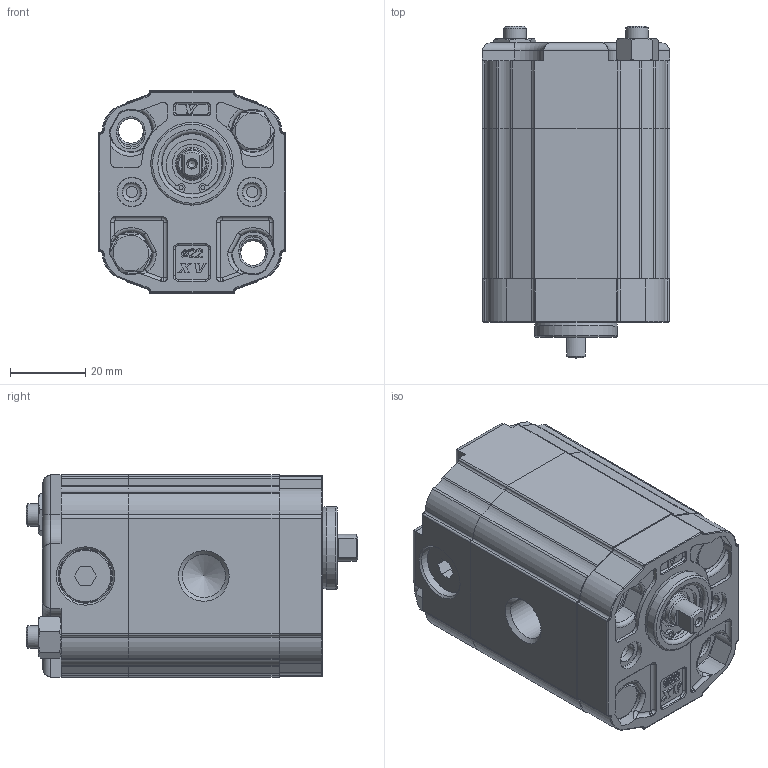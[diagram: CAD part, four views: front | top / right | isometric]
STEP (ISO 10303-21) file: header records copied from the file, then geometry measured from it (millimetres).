
FILE_DESCRIPTION(/* description */ ('Unknown'),/* implementation_level */ '2;1');
FILE_NAME(/* name */ 'X0R1121BBBF',/* time_stamp */ '2021-05-10T18:10:56+02:00',/* author */ ('Unknown'),/* organization */ ('Unknown'),/* preprocessor_version */ 'ST-DEVELOPER v16.7',/* originating_system */ 'Solid Edge',/* authorisation */ 'Unknown');
FILE_SCHEMA (('AUTOMOTIVE_DESIGN {1 0 10303 214 3 1 1}'));
Length unit declared in the file: millimetre
Products named in the file (5): X0R1121BBBF; X0R21; 0B; X0BBH40; XR017-F
Assembly tree (4 placements, depth 2):
  X0R1121BBBF
    X0R21
    0B
    X0BBH40
    XR017-F
Bounding box: 50 x 88.3 x 54 mm (x, y, z)
Volume: 164933.8 mm3; surface area: 40521.3 mm2
Topology: 4 solids, 9 shells, 813 faces, 2079 edges, 1319 vertices
Faces by surface type: plane 350, cylinder 289, cone 71, torus 69, bspline 30, sphere 4
Full cylindrical faces by diameter (mm): 1.053 x2, 2 x1, 5 x2, 6 x4, 6.01 x2, 6.5 x6, 7.16 x1, 7.5 x2, 7.9 x2, 7.92 x1, 8 x2, 8.1 x2, 8.566 x6, 9.318 x1, 10 x4, 10.445 x1, 11 x1, 11.445 x2, 14 x5, 14.5 x2, 16 x1, 16.2 x1, 16.8 x1, 22 x1
Entity records: 29900 total; most frequent: CARTESIAN_POINT 4876, DIRECTION 4145, ORIENTED_EDGE 3862, EDGE_CURVE 1931, AXIS2_PLACEMENT_3D 1563, VERTEX_POINT 1279, LINE 1019, VECTOR 1019
